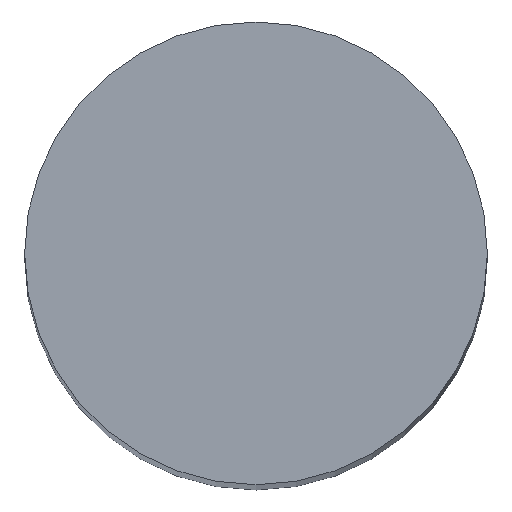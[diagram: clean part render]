
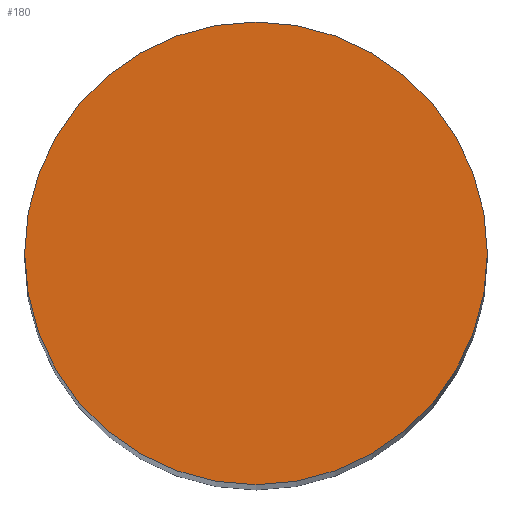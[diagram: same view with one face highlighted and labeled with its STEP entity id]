
A CAD part, top view. The second image highlights one B-rep face of the part: STEP entity #180.
In plain terms, the highlighted planar face has unit normal (0, 0, 1).
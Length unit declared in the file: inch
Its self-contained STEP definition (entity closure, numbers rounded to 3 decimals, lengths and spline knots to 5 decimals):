
#133=CARTESIAN_POINT('',(0.0,-0.2362,3.2677));
#134=VERTEX_POINT('',#133);
#142=CARTESIAN_POINT('',(0.0,0.2362,3.2677));
#143=VERTEX_POINT('',#142);
#150=CARTESIAN_POINT('',(0.0,0.0,3.2677));
#151=DIRECTION('',(0.0,-0.0,-1.0));
#152=DIRECTION('',(0.0,1.0,-0.0));
#153=AXIS2_PLACEMENT_3D('',#150,#151,#152);
#154=CIRCLE('',#153,0.2362);
#155=EDGE_CURVE('no 1299',#143,#134,#154,.T.);
#165=CARTESIAN_POINT('',(0.0,0.0,3.2677));
#166=DIRECTION('',(0.0,-0.0,-1.0));
#167=DIRECTION('',(0.0,1.0,-0.0));
#168=AXIS2_PLACEMENT_3D('',#165,#166,#167);
#169=CIRCLE('',#168,0.2362);
#170=EDGE_CURVE('no 1303',#134,#143,#169,.T.);
#171=ORIENTED_EDGE('',*,*,#170,.F.);
#172=ORIENTED_EDGE('',*,*,#155,.F.);
#173=EDGE_LOOP('',(#171,#172));
#174=FACE_OUTER_BOUND('',#173,.T.);
#175=CARTESIAN_POINT('',(0.2362,0.0,3.2677));
#176=DIRECTION('',(0.0,0.0,1.0));
#177=DIRECTION('',(0.0,-1.0,0.0));
#178=AXIS2_PLACEMENT_3D('',#175,#176,#177);
#179=PLANE('',#178);
#180=ADVANCED_FACE('no 1393',(#174),#179,.T.);
